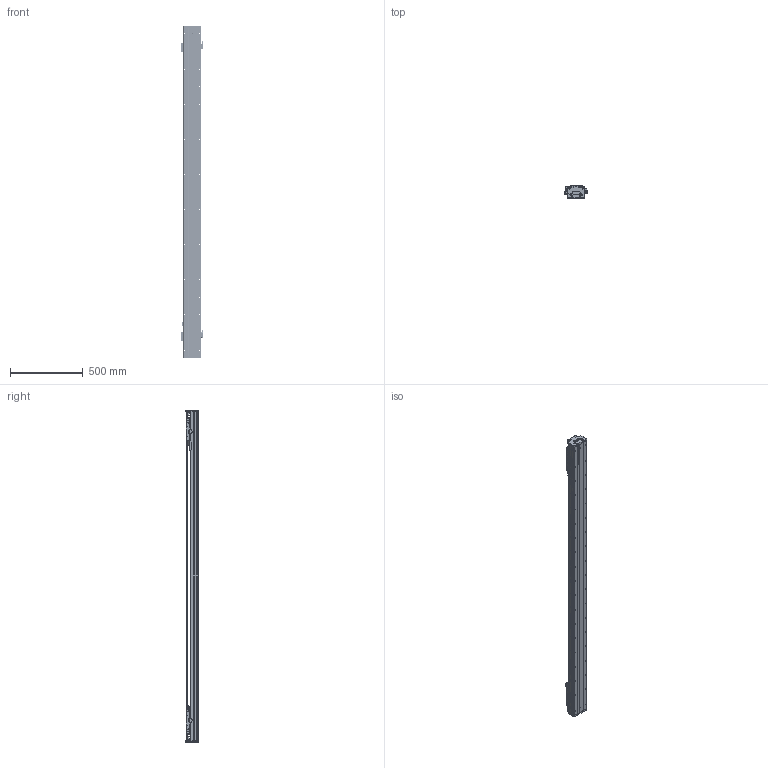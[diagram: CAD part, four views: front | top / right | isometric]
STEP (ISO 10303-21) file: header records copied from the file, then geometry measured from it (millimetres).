
FILE_DESCRIPTION (( 'STEP AP203' ), '1' );
FILE_NAME ('DKW120-2×B2-W060（T1760-L005-0.2）.STEP', '2021-09-28T07:27:38', ( '微软用户' ), ( '微软中国' ), 'SwSTEP 2.0', 'SolidWorks 2018', '' );
FILE_SCHEMA (( 'CONFIG_CONTROL_DESIGN' ));
Length unit declared in the file: millimetre
Products named in the file (24): B2-W060; BKMA01-W060-TRL280; 06652-0001-001-00 DKW120傷啣; EE_SX674A; RUS嫖掑喜; 06652-0001-004-00 DKW120嶺輸菜輸; DKW-DG-XJ-Z-00 笢潔滅袉砎蝶; Ru2; DKW-HXJ-JY-00 遣喳砎蝶; DKW-GYP-ZJ-00 笢潔嫖萇覜茼え; RUS嫖掑郪璃; 10940-0001-004-00 120詩湍裔啣; DKW-KGZ-ZJ-00 中间光电开关支架; 10980-0001-003-00 嫖萇羲壽嘐隅釱; 砎蝶猾沭; DKW120-2×B2-W060（T1760-L005-0.2）; DKW-SG-GYP-H-00 嫖萇覜茼え; 12160-0000-003-00 DKW120詩湍嶺輸; B2-W060_00; 12160-0000-004-00  DKW120詩湍揤輸; DKW120-B15-T300-DZ-00 菁釱; DKW119-RU-DTJ-00 RU2黍杅芛盓殤; DKW120 单轴模组-拉钢带组件; MSB15-DG-U
Assembly tree (41 placements, depth 3):
  DKW120-2×B2-W060（T1760-L005-0.2）
    DKW120-B15-T300-DZ-00 菁釱
    MSB15-DG-U  x2
    DKW120 单轴模组-拉钢带组件
      06652-0001-001-00 DKW120傷啣  x2
      06652-0001-004-00 DKW120嶺輸菜輸  x4
      DKW-HXJ-JY-00 遣喳砎蝶  x4
      10940-0001-004-00 120詩湍裔啣
      砎蝶猾沭  x2
      12160-0000-003-00 DKW120詩湍嶺輸  x2
      12160-0000-004-00  DKW120詩湍揤輸  x2
    BKMA01-W060-TRL280
    RUS嫖掑郪璃
      RUS嫖掑喜
      Ru2
    10980-0001-003-00 嫖萇羲壽嘐隅釱  x2
    B2-W060  x2
      DKW-SG-GYP-H-00 嫖萇覜茼え
      B2-W060_00
      DKW119-RU-DTJ-00 RU2黍杅芛盓殤
    EE_SX674A  x5
    Ru2
    DKW-DG-XJ-Z-00 笢潔滅袉砎蝶
    DKW-GYP-ZJ-00 笢潔嫖萇覜茼え
    DKW-KGZ-ZJ-00 中间光电开关支架
Bounding box: 154.1 x 84 x 2276 mm (x, y, z)
Volume: 8386257.7 mm3; surface area: 3257246.5 mm2
Topology: 60 solids, 158 shells, 6580 faces, 17902 edges, 11539 vertices
Faces by surface type: plane 3626, cylinder 1972, bspline 494, cone 488
Entity records: 144268 total; most frequent: CARTESIAN_POINT 49440, ORIENTED_EDGE 19617, DIRECTION 18272, EDGE_CURVE 9849, VERTEX_POINT 6465, AXIS2_PLACEMENT_3D 6144, LINE 5984, VECTOR 5984
